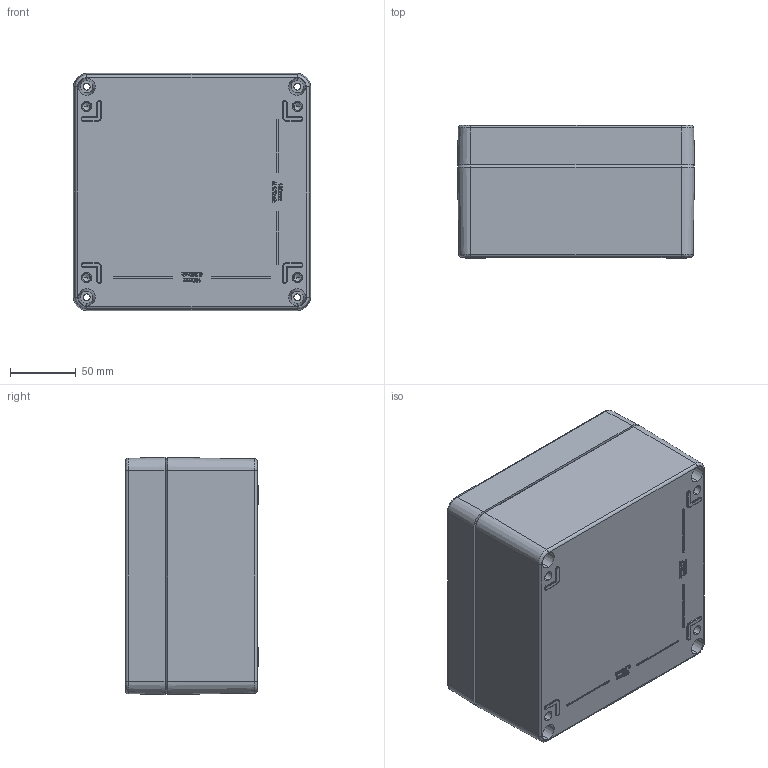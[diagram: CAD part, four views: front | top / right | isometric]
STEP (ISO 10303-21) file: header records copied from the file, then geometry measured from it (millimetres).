
FILE_DESCRIPTION (( 'STEP AP203' ), '1' );
FILE_NAME ('180x180x91 CLOSE.STEP', '2023-06-06T12:44:21', ( '' ), ( '' ), 'SwSTEP 2.0', 'SolidWorks 2017', '' );
FILE_SCHEMA (( 'CONFIG_CONTROL_DESIGN' ));
Length unit declared in the file: millimetre
Products named in the file (3): 180x180x91 CLOSE; LID 180X180X101; BASE 180X180X101
Assembly tree (2 placements, depth 2):
  180x180x91 CLOSE
    BASE 180X180X101
    LID 180X180X101
Bounding box: 180.2 x 101 x 180.2 mm (x, y, z)
Volume: 729132 mm3; surface area: 290634.9 mm2
Topology: 3 solids, 3 shells, 1708 faces, 4411 edges, 2825 vertices
Faces by surface type: plane 704, bspline 574, cylinder 273, cone 157
Entity records: 63361 total; most frequent: CARTESIAN_POINT 24901, ORIENTED_EDGE 8778, DIRECTION 6348, EDGE_CURVE 4389, VERTEX_POINT 2825, LINE 2546, VECTOR 2546, AXIS2_PLACEMENT_3D 1901
